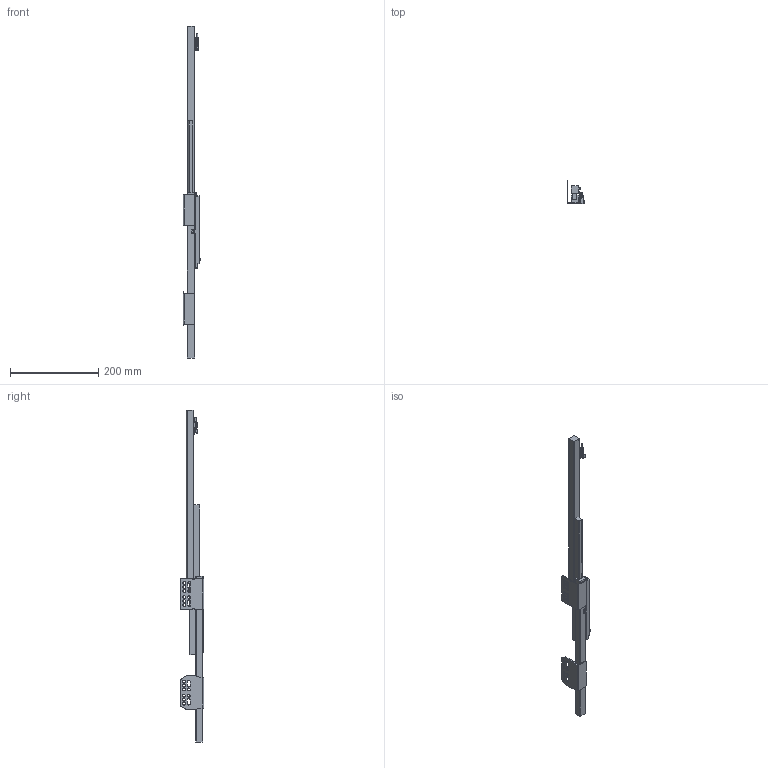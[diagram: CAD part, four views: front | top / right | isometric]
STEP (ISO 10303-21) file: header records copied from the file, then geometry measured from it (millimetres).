
FILE_DESCRIPTION (( 'STEP AP203' ), '1' );
FILE_NAME ('HB014504GX-L(打开).STEP', '2025-05-13T07:22:21', ( '微软用户' ), ( '微软中国' ), 'SwSTEP 2.0', 'SolidWorks 2021', '' );
FILE_SCHEMA (( 'CONFIG_CONTROL_DESIGN' ));
Products named in the file (1): HB014504GX-L(湖羲)
Bounding box: 40.83 x 53 x 754 mm (x, y, z)
Volume: 314809.9 mm3; surface area: 88421.4 mm2
Topology: 3 solids, 3 shells, 1194 faces, 3216 edges, 2011 vertices
Faces by surface type: cylinder 489, plane 368, torus 158, bspline 127, cone 44, sphere 8
Entity records: 68287 total; most frequent: CARTESIAN_POINT 39425, ORIENTED_EDGE 6368, DIRECTION 5823, EDGE_CURVE 3184, AXIS2_PLACEMENT_3D 2195, VERTEX_POINT 2011, LINE 1433, VECTOR 1433
